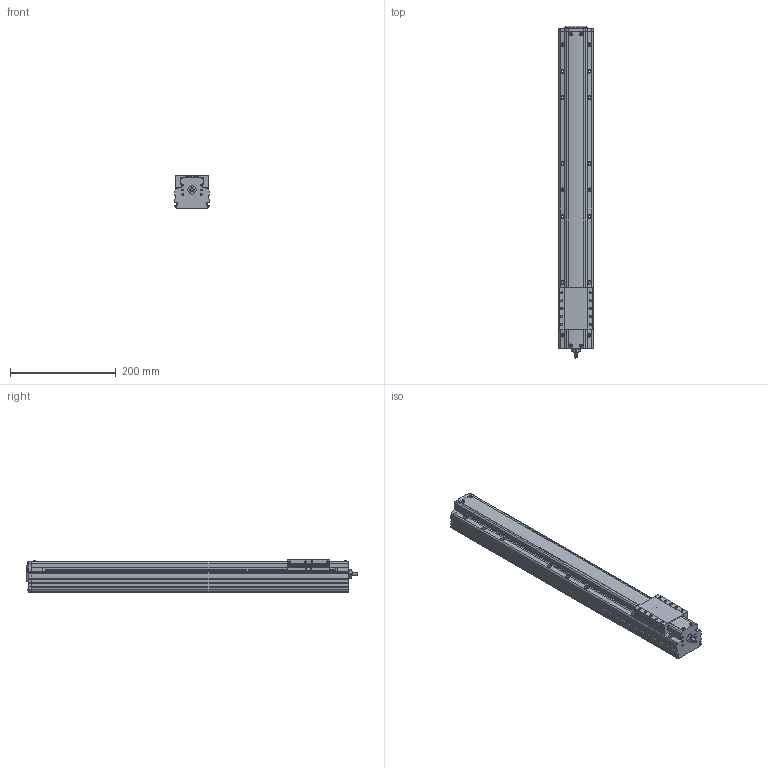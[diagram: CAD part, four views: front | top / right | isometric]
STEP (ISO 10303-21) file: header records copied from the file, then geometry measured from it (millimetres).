
FILE_DESCRIPTION(('STEP AP214'),'1');
FILE_NAME('Z:/Web/3D/PSA65/STP/PSA65-450 (3D)/PSA65ㅁㅁ-450.stp','2014-06-25T04:51:01',(' '),(' '),'Spatial InterOp 3D',' ',' ');
FILE_SCHEMA(('automotive_design'));
Length unit declared in the file: millimetre
Products named in the file (44): SLIDE; RRCV-PA060; 1; 2; 3; 4; 5; 6; 7; 8; 9; 10; 11; 12; 13; 14; 15; 16; 17; 18; 19; 20; 21; 22; 23; 24; 25; 26; 27; 28; 29; 30; 31; 스크루 : Round - M3.0 x 8.0; RN8 x 0.75; SHAFT-SAN65; BASE; 스크루 : Round - M3.0 x 6.0
Bounding box: 65 x 629.3 x 62 mm (x, y, z)
Volume: 1893537 mm3; surface area: 249163.5 mm2
Topology: 44 solids, 44 shells, 1656 faces, 4421 edges, 2816 vertices
Faces by surface type: plane 989, cylinder 455, cone 159, sphere 22, torus 16, bspline 15
Entity records: 65757 total; most frequent: CARTESIAN_POINT 10286, DIRECTION 8716, ORIENTED_EDGE 8614, EDGE_CURVE 4307, LINE 3104, VECTOR 3104, VERTEX_POINT 2816, AXIS2_PLACEMENT_3D 2806
